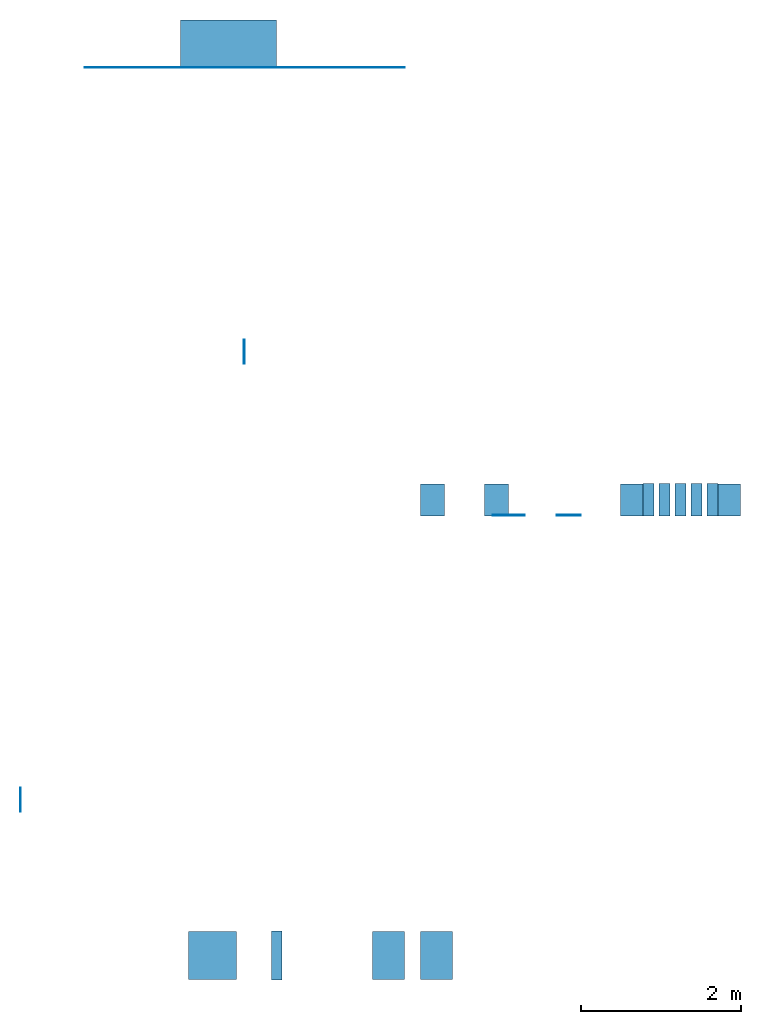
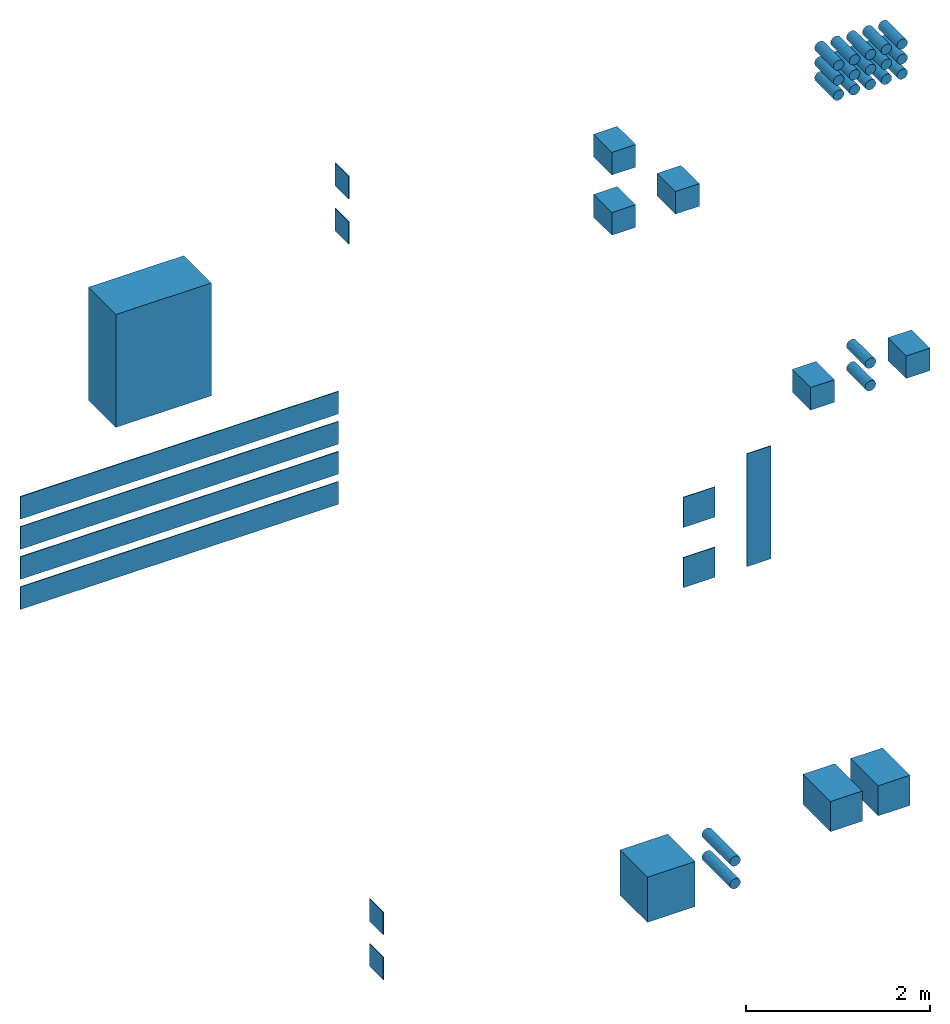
# One storey: 20 walls, 19 beams, 39 elements without a shape of their own.
"""IFC2X3 building model written with IfcOpenShell, lengths in millimetres."""

from ifc_helpers import new_model, si_unit, frame, frame_2d, origin_with_axes, origin_2d_with_axis, place, context, subcontext, project, spatial, rectangle, circle, extrude, material, type_object, element, aggregate, save


model = new_model("IFC2X3")

# Units and contexts
model_context = context("Model", 3, precision=1e-05, world=origin_with_axes())
body_context = subcontext(model_context, "Body", "Model", "MODEL_VIEW")
ifc_project = project(units=[si_unit("LENGTHUNIT", "METRE", prefix="MILLI"), si_unit("AREAUNIT", "SQUARE_METRE"), si_unit("VOLUMEUNIT", "CUBIC_METRE"), si_unit("MASSUNIT", "GRAM", prefix="KILO"), si_unit("TIMEUNIT", "SECOND"), si_unit("PLANEANGLEUNIT", "RADIAN"), si_unit("SOLIDANGLEUNIT", "STERADIAN"), si_unit("THERMODYNAMICTEMPERATUREUNIT", "DEGREE_CELSIUS"), si_unit("LUMINOUSINTENSITYUNIT", "LUMEN")], contexts=[model_context])

# Site, building, storey
site_placement = place(None, origin_with_axes())
site = spatial("IfcSite", under=ifc_project, at=site_placement, Name="Undefined", CompositionType="ELEMENT")
building_placement = place(site_placement, origin_with_axes())
building = spatial("IfcBuilding", under=site, at=building_placement, Name="Undefined", CompositionType="ELEMENT")
storey_placement = place(building_placement, origin_with_axes())
storey = spatial("IfcBuildingStorey", under=building, at=storey_placement, Name="Undefined", CompositionType="ELEMENT", Elevation=0.0)

# Assembly, beam
assembly_1_placement = place(storey_placement, origin_with_axes())
assembly_1 = element("IfcElementAssembly", 1, at=assembly_1_placement, inside=storey, Name="BEAM", AssemblyPlace="NOTDEFINED", PredefinedType="REINFORCEMENT_UNIT")
ifc_material_1 = material(Name="CONCRETE/Opening")
beam_type = type_object("IfcBeamType", Name="D133", PredefinedType="NOTDEFINED")
beam_1_placement = place(assembly_1_placement, frame((9250.0, 5795.0, 8666.5), z_axis=(0.0, 0.0, 1.0), x_axis=(0.0, 1.0, 0.0)))
beam_1 = element("IfcBeam", 2, at=beam_1_placement, type_object=beam_type, material=ifc_material_1, Name="BEAM", ObjectType="D133", context=body_context, shape_type="SweptSolid", body=[
    extrude(circle(Radius=66.5, at=origin_2d_with_axis()), frame((410.0, 0.0, 0.0), z_axis=(-1.0, 0.0, 0.0), x_axis=(0.0, -1.0, 0.0)), (0.0, 0.0, 1.0), 410.0),
])
aggregate(assembly_1, [beam_1])

assembly_2_placement = place(storey_placement, origin_with_axes())
assembly_2 = element("IfcElementAssembly", 3, at=assembly_2_placement, inside=storey, Name="BEAM", AssemblyPlace="NOTDEFINED", PredefinedType="REINFORCEMENT_UNIT")
beam_2_placement = place(assembly_2_placement, frame((9250.0, 5795.0, 8466.5), z_axis=(0.0, 0.0, 1.0), x_axis=(0.0, 1.0, 0.0)))
beam_2 = element("IfcBeam", 4, at=beam_2_placement, type_object=beam_type, material=ifc_material_1, Name="BEAM", ObjectType="D133", context=body_context, shape_type="SweptSolid", body=[
    extrude(circle(Radius=66.5, at=origin_2d_with_axis()), frame((410.0, 0.0, 0.0), z_axis=(-1.0, 0.0, 0.0), x_axis=(0.0, -1.0, 0.0)), (0.0, 0.0, 1.0), 410.0),
])
aggregate(assembly_2, [beam_2])

assembly_3_placement = place(storey_placement, origin_with_axes())
assembly_3 = element("IfcElementAssembly", 5, at=assembly_3_placement, inside=storey, Name="BEAM", AssemblyPlace="NOTDEFINED", PredefinedType="REINFORCEMENT_UNIT")
beam_3_placement = place(assembly_3_placement, frame((9250.0, 5795.0, 8266.5), z_axis=(0.0, 0.0, 1.0), x_axis=(0.0, 1.0, 0.0)))
beam_3 = element("IfcBeam", 6, at=beam_3_placement, type_object=beam_type, material=ifc_material_1, Name="BEAM", ObjectType="D133", context=body_context, shape_type="SweptSolid", body=[
    extrude(circle(Radius=66.5, at=origin_2d_with_axis()), frame((410.0, 0.0, 0.0), z_axis=(-1.0, 0.0, 0.0), x_axis=(0.0, -1.0, 0.0)), (0.0, 0.0, 1.0), 410.0),
])
aggregate(assembly_3, [beam_3])

assembly_4_placement = place(storey_placement, origin_with_axes())
assembly_4 = element("IfcElementAssembly", 7, at=assembly_4_placement, inside=storey, Name="BEAM", AssemblyPlace="NOTDEFINED", PredefinedType="REINFORCEMENT_UNIT")
beam_4_placement = place(assembly_4_placement, frame((8450.0, 5795.0, 8666.5), z_axis=(0.0, 0.0, 1.0), x_axis=(0.0, 1.0, 0.0)))
beam_4 = element("IfcBeam", 8, at=beam_4_placement, type_object=beam_type, material=ifc_material_1, Name="BEAM", ObjectType="D133", context=body_context, shape_type="SweptSolid", body=[
    extrude(circle(Radius=66.5, at=origin_2d_with_axis()), frame((410.0, 0.0, 0.0), z_axis=(-1.0, 0.0, 0.0), x_axis=(0.0, -1.0, 0.0)), (0.0, 0.0, 1.0), 410.0),
])
aggregate(assembly_4, [beam_4])

assembly_5_placement = place(storey_placement, origin_with_axes())
assembly_5 = element("IfcElementAssembly", 9, at=assembly_5_placement, inside=storey, Name="BEAM", AssemblyPlace="NOTDEFINED", PredefinedType="REINFORCEMENT_UNIT")
beam_5_placement = place(assembly_5_placement, frame((8450.0, 5795.0, 8466.5), z_axis=(0.0, 0.0, 1.0), x_axis=(0.0, 1.0, 0.0)))
beam_5 = element("IfcBeam", 10, at=beam_5_placement, type_object=beam_type, material=ifc_material_1, Name="BEAM", ObjectType="D133", context=body_context, shape_type="SweptSolid", body=[
    extrude(circle(Radius=66.5, at=origin_2d_with_axis()), frame((410.0, 0.0, 0.0), z_axis=(-1.0, 0.0, 0.0), x_axis=(0.0, -1.0, 0.0)), (0.0, 0.0, 1.0), 410.0),
])
aggregate(assembly_5, [beam_5])

assembly_6_placement = place(storey_placement, origin_with_axes())
assembly_6 = element("IfcElementAssembly", 11, at=assembly_6_placement, inside=storey, Name="BEAM", AssemblyPlace="NOTDEFINED", PredefinedType="REINFORCEMENT_UNIT")
beam_6_placement = place(assembly_6_placement, frame((8450.0, 5795.0, 8266.5), z_axis=(0.0, 0.0, 1.0), x_axis=(0.0, 1.0, 0.0)))
beam_6 = element("IfcBeam", 12, at=beam_6_placement, type_object=beam_type, material=ifc_material_1, Name="BEAM", ObjectType="D133", context=body_context, shape_type="SweptSolid", body=[
    extrude(circle(Radius=66.5, at=origin_2d_with_axis()), frame((410.0, 0.0, 0.0), z_axis=(-1.0, 0.0, 0.0), x_axis=(0.0, -1.0, 0.0)), (0.0, 0.0, 1.0), 410.0),
])
aggregate(assembly_6, [beam_6])

assembly_7_placement = place(storey_placement, origin_with_axes())
assembly_7 = element("IfcElementAssembly", 13, at=assembly_7_placement, inside=storey, Name="BEAM", AssemblyPlace="NOTDEFINED", PredefinedType="REINFORCEMENT_UNIT")
beam_7_placement = place(assembly_7_placement, frame((8650.0, 5795.0, 8666.5), z_axis=(0.0, 0.0, 1.0), x_axis=(0.0, 1.0, 0.0)))
beam_7 = element("IfcBeam", 14, at=beam_7_placement, type_object=beam_type, material=ifc_material_1, Name="BEAM", ObjectType="D133", context=body_context, shape_type="SweptSolid", body=[
    extrude(circle(Radius=66.5, at=origin_2d_with_axis()), frame((410.0, 0.0, 0.0), z_axis=(-1.0, 0.0, 0.0), x_axis=(0.0, -1.0, 0.0)), (0.0, 0.0, 1.0), 410.0),
])
aggregate(assembly_7, [beam_7])

assembly_8_placement = place(storey_placement, origin_with_axes())
assembly_8 = element("IfcElementAssembly", 15, at=assembly_8_placement, inside=storey, Name="BEAM", AssemblyPlace="NOTDEFINED", PredefinedType="REINFORCEMENT_UNIT")
beam_8_placement = place(assembly_8_placement, frame((8650.0, 5795.0, 8466.5), z_axis=(0.0, 0.0, 1.0), x_axis=(0.0, 1.0, 0.0)))
beam_8 = element("IfcBeam", 16, at=beam_8_placement, type_object=beam_type, material=ifc_material_1, Name="BEAM", ObjectType="D133", context=body_context, shape_type="SweptSolid", body=[
    extrude(circle(Radius=66.5, at=origin_2d_with_axis()), frame((410.0, 0.0, 0.0), z_axis=(-1.0, 0.0, 0.0), x_axis=(0.0, -1.0, 0.0)), (0.0, 0.0, 1.0), 410.0),
])
aggregate(assembly_8, [beam_8])

assembly_9_placement = place(storey_placement, origin_with_axes())
assembly_9 = element("IfcElementAssembly", 17, at=assembly_9_placement, inside=storey, Name="BEAM", AssemblyPlace="NOTDEFINED", PredefinedType="REINFORCEMENT_UNIT")
beam_9_placement = place(assembly_9_placement, frame((8650.0, 5795.0, 8266.5), z_axis=(0.0, 0.0, 1.0), x_axis=(0.0, 1.0, 0.0)))
beam_9 = element("IfcBeam", 18, at=beam_9_placement, type_object=beam_type, material=ifc_material_1, Name="BEAM", ObjectType="D133", context=body_context, shape_type="SweptSolid", body=[
    extrude(circle(Radius=66.5, at=origin_2d_with_axis()), frame((410.0, 0.0, 0.0), z_axis=(-1.0, 0.0, 0.0), x_axis=(0.0, -1.0, 0.0)), (0.0, 0.0, 1.0), 410.0),
])
aggregate(assembly_9, [beam_9])

assembly_10_placement = place(storey_placement, origin_with_axes())
assembly_10 = element("IfcElementAssembly", 19, at=assembly_10_placement, inside=storey, Name="BEAM", AssemblyPlace="NOTDEFINED", PredefinedType="REINFORCEMENT_UNIT")
beam_10_placement = place(assembly_10_placement, frame((9050.0, 5795.0, 8666.5), z_axis=(0.0, 0.0, 1.0), x_axis=(0.0, 1.0, 0.0)))
beam_10 = element("IfcBeam", 20, at=beam_10_placement, type_object=beam_type, material=ifc_material_1, Name="BEAM", ObjectType="D133", context=body_context, shape_type="SweptSolid", body=[
    extrude(circle(Radius=66.5, at=origin_2d_with_axis()), frame((410.0, 0.0, 0.0), z_axis=(-1.0, 0.0, 0.0), x_axis=(0.0, -1.0, 0.0)), (0.0, 0.0, 1.0), 410.0),
])
aggregate(assembly_10, [beam_10])

assembly_11_placement = place(storey_placement, origin_with_axes())
assembly_11 = element("IfcElementAssembly", 21, at=assembly_11_placement, inside=storey, Name="BEAM", AssemblyPlace="NOTDEFINED", PredefinedType="REINFORCEMENT_UNIT")
beam_11_placement = place(assembly_11_placement, frame((9050.0, 5795.0, 8466.5), z_axis=(0.0, 0.0, 1.0), x_axis=(0.0, 1.0, 0.0)))
beam_11 = element("IfcBeam", 22, at=beam_11_placement, type_object=beam_type, material=ifc_material_1, Name="BEAM", ObjectType="D133", context=body_context, shape_type="SweptSolid", body=[
    extrude(circle(Radius=66.5, at=origin_2d_with_axis()), frame((410.0, 0.0, 0.0), z_axis=(-1.0, 0.0, 0.0), x_axis=(0.0, -1.0, 0.0)), (0.0, 0.0, 1.0), 410.0),
])
aggregate(assembly_11, [beam_11])

assembly_12_placement = place(storey_placement, origin_with_axes())
assembly_12 = element("IfcElementAssembly", 23, at=assembly_12_placement, inside=storey, Name="BEAM", AssemblyPlace="NOTDEFINED", PredefinedType="REINFORCEMENT_UNIT")
beam_12_placement = place(assembly_12_placement, frame((9050.0, 5795.0, 8266.5), z_axis=(0.0, 0.0, 1.0), x_axis=(0.0, 1.0, 0.0)))
beam_12 = element("IfcBeam", 24, at=beam_12_placement, type_object=beam_type, material=ifc_material_1, Name="BEAM", ObjectType="D133", context=body_context, shape_type="SweptSolid", body=[
    extrude(circle(Radius=66.5, at=origin_2d_with_axis()), frame((410.0, 0.0, 0.0), z_axis=(-1.0, 0.0, 0.0), x_axis=(0.0, -1.0, 0.0)), (0.0, 0.0, 1.0), 410.0),
])
aggregate(assembly_12, [beam_12])

assembly_13_placement = place(storey_placement, origin_with_axes())
assembly_13 = element("IfcElementAssembly", 25, at=assembly_13_placement, inside=storey, Name="BEAM", AssemblyPlace="NOTDEFINED", PredefinedType="REINFORCEMENT_UNIT")
beam_13_placement = place(assembly_13_placement, frame((8850.0, 5795.0, 8666.5), z_axis=(0.0, 0.0, 1.0), x_axis=(0.0, 1.0, 0.0)))
beam_13 = element("IfcBeam", 26, at=beam_13_placement, type_object=beam_type, material=ifc_material_1, Name="BEAM", ObjectType="D133", context=body_context, shape_type="SweptSolid", body=[
    extrude(circle(Radius=66.5, at=origin_2d_with_axis()), frame((410.0, 0.0, 0.0), z_axis=(-1.0, 0.0, 0.0), x_axis=(0.0, -1.0, 0.0)), (0.0, 0.0, 1.0), 410.0),
])
aggregate(assembly_13, [beam_13])

assembly_14_placement = place(storey_placement, origin_with_axes())
assembly_14 = element("IfcElementAssembly", 27, at=assembly_14_placement, inside=storey, Name="BEAM", AssemblyPlace="NOTDEFINED", PredefinedType="REINFORCEMENT_UNIT")
beam_14_placement = place(assembly_14_placement, frame((8850.0, 5795.0, 8466.5), z_axis=(0.0, 0.0, 1.0), x_axis=(0.0, 1.0, 0.0)))
beam_14 = element("IfcBeam", 28, at=beam_14_placement, type_object=beam_type, material=ifc_material_1, Name="BEAM", ObjectType="D133", context=body_context, shape_type="SweptSolid", body=[
    extrude(circle(Radius=66.5, at=origin_2d_with_axis()), frame((410.0, 0.0, 0.0), z_axis=(-1.0, 0.0, 0.0), x_axis=(0.0, -1.0, 0.0)), (0.0, 0.0, 1.0), 410.0),
])
aggregate(assembly_14, [beam_14])

assembly_15_placement = place(storey_placement, origin_with_axes())
assembly_15 = element("IfcElementAssembly", 29, at=assembly_15_placement, inside=storey, Name="BEAM", AssemblyPlace="NOTDEFINED", PredefinedType="REINFORCEMENT_UNIT")
beam_15_placement = place(assembly_15_placement, frame((8850.0, 5795.0, 8266.5), z_axis=(0.0, 0.0, 1.0), x_axis=(0.0, 1.0, 0.0)))
beam_15 = element("IfcBeam", 30, at=beam_15_placement, type_object=beam_type, material=ifc_material_1, Name="BEAM", ObjectType="D133", context=body_context, shape_type="SweptSolid", body=[
    extrude(circle(Radius=66.5, at=origin_2d_with_axis()), frame((410.0, 0.0, 0.0), z_axis=(-1.0, 0.0, 0.0), x_axis=(0.0, -1.0, 0.0)), (0.0, 0.0, 1.0), 410.0),
])
aggregate(assembly_15, [beam_15])

assembly_16_placement = place(storey_placement, origin_with_axes())
assembly_16 = element("IfcElementAssembly", 31, at=assembly_16_placement, inside=storey, Name="BEAM", AssemblyPlace="NOTDEFINED", PredefinedType="REINFORCEMENT_UNIT")
beam_16_placement = place(assembly_16_placement, frame((8850.0, 5795.0, 4566.5), z_axis=(0.0, 0.0, 1.0), x_axis=(0.0, 1.0, 0.0)))
beam_16 = element("IfcBeam", 32, at=beam_16_placement, type_object=beam_type, material=ifc_material_1, Name="BEAM", ObjectType="D133", context=body_context, shape_type="SweptSolid", body=[
    extrude(circle(Radius=66.5, at=origin_2d_with_axis()), frame((410.0, 0.0, 0.0), z_axis=(-1.0, 0.0, 0.0), x_axis=(0.0, -1.0, 0.0)), (0.0, 0.0, 1.0), 410.0),
])
aggregate(assembly_16, [beam_16])

assembly_17_placement = place(storey_placement, origin_with_axes())
assembly_17 = element("IfcElementAssembly", 33, at=assembly_17_placement, inside=storey, Name="BEAM", AssemblyPlace="NOTDEFINED", PredefinedType="REINFORCEMENT_UNIT")
beam_17_placement = place(assembly_17_placement, frame((8850.0, 5795.0, 4266.5), z_axis=(0.0, 0.0, 1.0), x_axis=(0.0, 1.0, 0.0)))
beam_17 = element("IfcBeam", 34, at=beam_17_placement, type_object=beam_type, material=ifc_material_1, Name="BEAM", ObjectType="D133", context=body_context, shape_type="SweptSolid", body=[
    extrude(circle(Radius=66.5, at=origin_2d_with_axis()), frame((410.0, 0.0, 0.0), z_axis=(-1.0, 0.0, 0.0), x_axis=(0.0, -1.0, 0.0)), (0.0, 0.0, 1.0), 410.0),
])
aggregate(assembly_17, [beam_17])

assembly_18_placement = place(storey_placement, origin_with_axes())
assembly_18 = element("IfcElementAssembly", 35, at=assembly_18_placement, inside=storey, Name="BEAM", AssemblyPlace="NOTDEFINED", PredefinedType="REINFORCEMENT_UNIT")
beam_18_placement = place(assembly_18_placement, frame((3800.0, -5.0, 3233.5), z_axis=(0.0, 0.0, 1.0), x_axis=(0.0, 1.0, 0.0)))
beam_18 = element("IfcBeam", 36, at=beam_18_placement, type_object=beam_type, material=ifc_material_1, Name="BEAM", ObjectType="D133", context=body_context, shape_type="SweptSolid", body=[
    extrude(circle(Radius=66.5, at=origin_2d_with_axis()), frame((610.0, 0.0, 0.0), z_axis=(-1.0, 0.0, 0.0), x_axis=(0.0, -1.0, 0.0)), (0.0, 0.0, 1.0), 610.0),
])
aggregate(assembly_18, [beam_18])

assembly_19_placement = place(storey_placement, origin_with_axes())
assembly_19 = element("IfcElementAssembly", 37, at=assembly_19_placement, inside=storey, Name="BEAM", AssemblyPlace="NOTDEFINED", PredefinedType="REINFORCEMENT_UNIT")
beam_19_placement = place(assembly_19_placement, frame((3800.0, -5.0, 2933.5), z_axis=(0.0, 0.0, 1.0), x_axis=(0.0, 1.0, 0.0)))
beam_19 = element("IfcBeam", 38, at=beam_19_placement, type_object=beam_type, material=ifc_material_1, Name="BEAM", ObjectType="D133", context=body_context, shape_type="SweptSolid", body=[
    extrude(circle(Radius=66.5, at=origin_2d_with_axis()), frame((610.0, 0.0, 0.0), z_axis=(-1.0, 0.0, 0.0), x_axis=(0.0, -1.0, 0.0)), (0.0, 0.0, 1.0), 610.0),
])
aggregate(assembly_19, [beam_19])

# Assembly, wall
assembly_20_placement = place(storey_placement, origin_with_axes())
assembly_20 = element("IfcElementAssembly", 39, at=assembly_20_placement, inside=storey, Name="Wall", AssemblyPlace="NOTDEFINED", PredefinedType="RIGID_FRAME")
ifc_material_2 = material(Name="STEEL/Steel_Undefined")
wall_type_1 = type_object("IfcWallType", Name="300*10", PredefinedType="NOTDEFINED")
wall_1_placement = place(assembly_20_placement, frame((595.000000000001, 2100.0, 2100.0), z_axis=(0.0, 0.0, 1.0), x_axis=(0.0, 1.0, 0.0)))
wall_1 = element("IfcWall", 40, at=wall_1_placement, type_object=wall_type_1, material=ifc_material_2, Name="Wall", ObjectType="300*10", context=body_context, shape_type="SweptSolid", body=[
    extrude(rectangle(XDim=300.0, YDim=10.0, at=frame_2d((0.0, 150.0), x_axis=(0.0, -1.0))), frame((0.0, 0.0, 0.0), z_axis=(0.0, 0.0, 1.0), x_axis=(0.0, -1.0, 0.0)), (0.0, 0.0, 1.0), 300.0),
])
aggregate(assembly_20, [wall_1])

assembly_21_placement = place(storey_placement, origin_with_axes())
assembly_21 = element("IfcElementAssembly", 41, at=assembly_21_placement, inside=storey, Name="Wall", AssemblyPlace="NOTDEFINED", PredefinedType="RIGID_FRAME")
wall_2_placement = place(assembly_21_placement, frame((595.000000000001, 2100.0, 1500.0), z_axis=(0.0, 0.0, 1.0), x_axis=(0.0, 1.0, 0.0)))
wall_2 = element("IfcWall", 42, at=wall_2_placement, type_object=wall_type_1, material=ifc_material_2, Name="Wall", ObjectType="300*10", context=body_context, shape_type="SweptSolid", body=[
    extrude(rectangle(XDim=300.0, YDim=10.0, at=frame_2d((0.0, 150.0), x_axis=(0.0, -1.0))), frame((0.0, 0.0, 0.0), z_axis=(0.0, 0.0, 1.0), x_axis=(0.0, -1.0, 0.0)), (0.0, 0.0, 1.0), 300.0),
])
aggregate(assembly_21, [wall_2])

assembly_22_placement = place(storey_placement, origin_with_axes())
assembly_22 = element("IfcElementAssembly", 43, at=assembly_22_placement, inside=storey, Name="Wall", AssemblyPlace="NOTDEFINED", PredefinedType="REINFORCEMENT_UNIT")
wall_3_placement = place(assembly_22_placement, frame((1400.0, 11405.0, 1700.0), z_axis=(0.0, 0.0, 1.0), x_axis=(1.0, 0.0, 0.0)))
wall_3 = element("IfcWall", 44, at=wall_3_placement, type_object=wall_type_1, material=ifc_material_1, Name="Wall", ObjectType="300*10", context=body_context, shape_type="SweptSolid", body=[
    extrude(rectangle(XDim=4000.0, YDim=10.0, at=frame_2d((0.0, 2000.0), x_axis=(0.0, -1.0))), frame((0.0, 0.0, 0.0), z_axis=(0.0, 0.0, 1.0), x_axis=(0.0, -1.0, 0.0)), (0.0, 0.0, 1.0), 300.0),
])
aggregate(assembly_22, [wall_3])

assembly_23_placement = place(storey_placement, origin_with_axes())
assembly_23 = element("IfcElementAssembly", 45, at=assembly_23_placement, inside=storey, Name="Wall", AssemblyPlace="NOTDEFINED", PredefinedType="REINFORCEMENT_UNIT")
wall_4_placement = place(assembly_23_placement, frame((1400.0, 11405.0, 1300.0), z_axis=(0.0, 0.0, 1.0), x_axis=(1.0, 0.0, 0.0)))
wall_4 = element("IfcWall", 46, at=wall_4_placement, type_object=wall_type_1, material=ifc_material_1, Name="Wall", ObjectType="300*10", context=body_context, shape_type="SweptSolid", body=[
    extrude(rectangle(XDim=4000.0, YDim=10.0, at=frame_2d((0.0, 2000.0), x_axis=(0.0, -1.0))), frame((0.0, 0.0, 0.0), z_axis=(0.0, 0.0, 1.0), x_axis=(0.0, -1.0, 0.0)), (0.0, 0.0, 1.0), 300.0),
])
aggregate(assembly_23, [wall_4])

assembly_24_placement = place(storey_placement, origin_with_axes())
assembly_24 = element("IfcElementAssembly", 47, at=assembly_24_placement, inside=storey, Name="Wall", AssemblyPlace="NOTDEFINED", PredefinedType="REINFORCEMENT_UNIT")
wall_5_placement = place(assembly_24_placement, frame((1400.0, 11405.0, 899.999999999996), z_axis=(0.0, 0.0, 1.0), x_axis=(1.0, 0.0, 0.0)))
wall_5 = element("IfcWall", 48, at=wall_5_placement, type_object=wall_type_1, material=ifc_material_1, Name="Wall", ObjectType="300*10", context=body_context, shape_type="SweptSolid", body=[
    extrude(rectangle(XDim=4000.0, YDim=10.0, at=frame_2d((0.0, 2000.0), x_axis=(0.0, -1.0))), frame((0.0, 0.0, 0.0), z_axis=(0.0, 0.0, 1.0), x_axis=(0.0, -1.0, 0.0)), (0.0, 0.0, 1.0), 300.0),
])
aggregate(assembly_24, [wall_5])

assembly_25_placement = place(storey_placement, origin_with_axes())
assembly_25 = element("IfcElementAssembly", 49, at=assembly_25_placement, inside=storey, Name="Wall", AssemblyPlace="NOTDEFINED", PredefinedType="REINFORCEMENT_UNIT")
wall_6_placement = place(assembly_25_placement, frame((1400.0, 11405.0, 499.999999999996), z_axis=(0.0, 0.0, 1.0), x_axis=(1.0, 0.0, 0.0)))
wall_6 = element("IfcWall", 50, at=wall_6_placement, type_object=wall_type_1, material=ifc_material_1, Name="Wall", ObjectType="300*10", context=body_context, shape_type="SweptSolid", body=[
    extrude(rectangle(XDim=4000.0, YDim=10.0, at=frame_2d((0.0, 2000.0), x_axis=(0.0, -1.0))), frame((0.0, 0.0, 0.0), z_axis=(0.0, 0.0, 1.0), x_axis=(0.0, -1.0, 0.0)), (0.0, 0.0, 1.0), 300.0),
])
aggregate(assembly_25, [wall_6])

assembly_26_placement = place(storey_placement, origin_with_axes())
assembly_26 = element("IfcElementAssembly", 51, at=assembly_26_placement, inside=storey, Name="Wall", AssemblyPlace="NOTDEFINED", PredefinedType="RIGID_FRAME")
wall_7_placement = place(assembly_26_placement, frame((3395.0, 7700.0, 7500.0), z_axis=(0.0, 0.0, 1.0), x_axis=(0.0, 1.0, 0.0)))
wall_7 = element("IfcWall", 52, at=wall_7_placement, type_object=wall_type_1, material=ifc_material_2, Name="Wall", ObjectType="300*10", context=body_context, shape_type="SweptSolid", body=[
    extrude(rectangle(XDim=300.0, YDim=10.0, at=frame_2d((0.0, 150.0), x_axis=(0.0, -1.0))), frame((0.0, 0.0, 0.0), z_axis=(0.0, 0.0, 1.0), x_axis=(0.0, -1.0, 0.0)), (0.0, 0.0, 1.0), 300.0),
])
aggregate(assembly_26, [wall_7])

assembly_27_placement = place(storey_placement, origin_with_axes())
assembly_27 = element("IfcElementAssembly", 53, at=assembly_27_placement, inside=storey, Name="Wall", AssemblyPlace="NOTDEFINED", PredefinedType="RIGID_FRAME")
wall_8_placement = place(assembly_27_placement, frame((3395.0, 7700.0, 6900.0), z_axis=(0.0, 0.0, 1.0), x_axis=(0.0, 1.0, 0.0)))
wall_8 = element("IfcWall", 54, at=wall_8_placement, type_object=wall_type_1, material=ifc_material_2, Name="Wall", ObjectType="300*10", context=body_context, shape_type="SweptSolid", body=[
    extrude(rectangle(XDim=300.0, YDim=10.0, at=frame_2d((0.0, 150.0), x_axis=(0.0, -1.0))), frame((0.0, 0.0, 0.0), z_axis=(0.0, 0.0, 1.0), x_axis=(0.0, -1.0, 0.0)), (0.0, 0.0, 1.0), 300.0),
])
aggregate(assembly_27, [wall_8])

assembly_28_placement = place(storey_placement, origin_with_axes())
assembly_28 = element("IfcElementAssembly", 55, at=assembly_28_placement, inside=storey, Name="Wall", AssemblyPlace="NOTDEFINED", PredefinedType="RIGID_FRAME")
wall_type_2 = type_object("IfcWallType", Name="400*10", PredefinedType="NOTDEFINED")
wall_9_placement = place(assembly_28_placement, frame((6900.0, 5804.99999999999, 3200.0), z_axis=(0.0, 0.0, 1.0), x_axis=(-1.0, 0.0, 0.0)))
wall_9 = element("IfcWall", 56, at=wall_9_placement, type_object=wall_type_2, material=ifc_material_2, Name="Wall", ObjectType="400*10", context=body_context, shape_type="SweptSolid", body=[
    extrude(rectangle(XDim=400.0, YDim=10.0, at=frame_2d((0.0, 200.0), x_axis=(0.0, -1.0))), frame((0.0, 0.0, 0.0), z_axis=(0.0, 0.0, 1.0), x_axis=(0.0, -1.0, 0.0)), (0.0, 0.0, 1.0), 400.0),
])
aggregate(assembly_28, [wall_9])

assembly_29_placement = place(storey_placement, origin_with_axes())
assembly_29 = element("IfcElementAssembly", 57, at=assembly_29_placement, inside=storey, Name="Wall", AssemblyPlace="NOTDEFINED", PredefinedType="RIGID_FRAME")
wall_10_placement = place(assembly_29_placement, frame((6900.0, 5804.99999999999, 2400.0), z_axis=(0.0, 0.0, 1.0), x_axis=(-1.0, 0.0, 0.0)))
wall_10 = element("IfcWall", 58, at=wall_10_placement, type_object=wall_type_2, material=ifc_material_2, Name="Wall", ObjectType="400*10", context=body_context, shape_type="SweptSolid", body=[
    extrude(rectangle(XDim=400.0, YDim=10.0, at=frame_2d((0.0, 200.0), x_axis=(0.0, -1.0))), frame((0.0, 0.0, 0.0), z_axis=(0.0, 0.0, 1.0), x_axis=(0.0, -1.0, 0.0)), (0.0, 0.0, 1.0), 400.0),
])
aggregate(assembly_29, [wall_10])

assembly_30_placement = place(storey_placement, origin_with_axes())
assembly_30 = element("IfcElementAssembly", 59, at=assembly_30_placement, inside=storey, Name="Wall", AssemblyPlace="NOTDEFINED", PredefinedType="RIGID_FRAME")
wall_type_3 = type_object("IfcWallType", Name="1500*10", PredefinedType="NOTDEFINED")
wall_11_placement = place(assembly_30_placement, frame((7600.0, 5805.0, 2400.0), z_axis=(0.0, 0.0, 1.0), x_axis=(-1.0, 0.0, 0.0)))
wall_11 = element("IfcWall", 60, at=wall_11_placement, type_object=wall_type_3, material=ifc_material_2, Name="Wall", ObjectType="1500*10", context=body_context, shape_type="SweptSolid", body=[
    extrude(rectangle(XDim=300.0, YDim=10.0, at=frame_2d((0.0, 150.0), x_axis=(0.0, -1.0))), frame((0.0, 0.0, 0.0), z_axis=(0.0, 0.0, 1.0), x_axis=(0.0, -1.0, 0.0)), (0.0, 0.0, 1.0), 1500.0),
])
aggregate(assembly_30, [wall_11])

assembly_31_placement = place(storey_placement, origin_with_axes())
assembly_31 = element("IfcElementAssembly", 61, at=assembly_31_placement, inside=storey, Name="Wall", AssemblyPlace="NOTDEFINED", PredefinedType="REINFORCEMENT_UNIT")
wall_type_4 = type_object("IfcWallType", Name="300*400", PredefinedType="NOTDEFINED")
wall_12_placement = place(assembly_31_placement, frame((6700.0, 6000.0, 7400.0), z_axis=(0.0, 0.0, 1.0), x_axis=(-1.0, 0.0, 0.0)))
wall_12 = element("IfcWall", 62, at=wall_12_placement, type_object=wall_type_4, material=ifc_material_1, Name="Wall", ObjectType="300*400", context=body_context, shape_type="SweptSolid", body=[
    extrude(rectangle(XDim=300.0, YDim=400.0, at=frame_2d((0.0, 150.0), x_axis=(0.0, -1.0))), frame((0.0, 0.0, 0.0), z_axis=(0.0, 0.0, 1.0), x_axis=(0.0, -1.0, 0.0)), (0.0, 0.0, 1.0), 300.0),
])
aggregate(assembly_31, [wall_12])

assembly_32_placement = place(storey_placement, origin_with_axes())
assembly_32 = element("IfcElementAssembly", 63, at=assembly_32_placement, inside=storey, Name="Wall", AssemblyPlace="NOTDEFINED", PredefinedType="REINFORCEMENT_UNIT")
wall_13_placement = place(assembly_32_placement, frame((5900.0, 6000.0, 7400.0), z_axis=(0.0, 0.0, 1.0), x_axis=(-1.0, 0.0, 0.0)))
wall_13 = element("IfcWall", 64, at=wall_13_placement, type_object=wall_type_4, material=ifc_material_1, Name="Wall", ObjectType="300*400", context=body_context, shape_type="SweptSolid", body=[
    extrude(rectangle(XDim=300.0, YDim=400.0, at=frame_2d((0.0, 150.0), x_axis=(0.0, -1.0))), frame((0.0, 0.0, 0.0), z_axis=(0.0, 0.0, 1.0), x_axis=(0.0, -1.0, 0.0)), (0.0, 0.0, 1.0), 300.0),
])
aggregate(assembly_32, [wall_13])

assembly_33_placement = place(storey_placement, origin_with_axes())
assembly_33 = element("IfcElementAssembly", 65, at=assembly_33_placement, inside=storey, Name="Wall", AssemblyPlace="NOTDEFINED", PredefinedType="REINFORCEMENT_UNIT")
wall_14_placement = place(assembly_33_placement, frame((5900.0, 6000.0, 8200.0), z_axis=(0.0, 0.0, 1.0), x_axis=(-1.0, 0.0, 0.0)))
wall_14 = element("IfcWall", 66, at=wall_14_placement, type_object=wall_type_4, material=ifc_material_1, Name="Wall", ObjectType="300*400", context=body_context, shape_type="SweptSolid", body=[
    extrude(rectangle(XDim=300.0, YDim=400.0, at=frame_2d((0.0, 150.0), x_axis=(0.0, -1.0))), frame((0.0, 0.0, 0.0), z_axis=(0.0, 0.0, 1.0), x_axis=(0.0, -1.0, 0.0)), (0.0, 0.0, 1.0), 300.0),
])
aggregate(assembly_33, [wall_14])

assembly_34_placement = place(storey_placement, origin_with_axes())
assembly_34 = element("IfcElementAssembly", 67, at=assembly_34_placement, inside=storey, Name="Wall", AssemblyPlace="NOTDEFINED", PredefinedType="REINFORCEMENT_UNIT")
wall_15_placement = place(assembly_34_placement, frame((8400.0, 6000.0, 4200.0), z_axis=(0.0, 0.0, 1.0), x_axis=(-1.0, 0.0, 0.0)))
wall_15 = element("IfcWall", 68, at=wall_15_placement, type_object=wall_type_4, material=ifc_material_1, Name="Wall", ObjectType="300*400", context=body_context, shape_type="SweptSolid", body=[
    extrude(rectangle(XDim=300.0, YDim=400.0, at=frame_2d((0.0, 150.0), x_axis=(0.0, -1.0))), frame((0.0, 0.0, 0.0), z_axis=(0.0, 0.0, 1.0), x_axis=(0.0, -1.0, 0.0)), (0.0, 0.0, 1.0), 300.0),
])
aggregate(assembly_34, [wall_15])

assembly_35_placement = place(storey_placement, origin_with_axes())
assembly_35 = element("IfcElementAssembly", 69, at=assembly_35_placement, inside=storey, Name="Wall", AssemblyPlace="NOTDEFINED", PredefinedType="REINFORCEMENT_UNIT")
wall_16_placement = place(assembly_35_placement, frame((9600.0, 6000.0, 4200.0), z_axis=(0.0, 0.0, 1.0), x_axis=(-1.0, 0.0, 0.0)))
wall_16 = element("IfcWall", 70, at=wall_16_placement, type_object=wall_type_4, material=ifc_material_1, Name="Wall", ObjectType="300*400", context=body_context, shape_type="SweptSolid", body=[
    extrude(rectangle(XDim=300.0, YDim=400.0, at=frame_2d((0.0, 150.0), x_axis=(0.0, -1.0))), frame((0.0, 0.0, 0.0), z_axis=(0.0, 0.0, 1.0), x_axis=(0.0, -1.0, 0.0)), (0.0, 0.0, 1.0), 300.0),
])
aggregate(assembly_35, [wall_16])

assembly_36_placement = place(storey_placement, origin_with_axes())
assembly_36 = element("IfcElementAssembly", 71, at=assembly_36_placement, inside=storey, Name="Wall", AssemblyPlace="NOTDEFINED", PredefinedType="REINFORCEMENT_UNIT")
wall_type_5 = type_object("IfcWallType", Name="1500*600", PredefinedType="NOTDEFINED")
wall_17_placement = place(assembly_36_placement, frame((3800.0, 11700.0, 2500.0), z_axis=(0.0, 0.0, 1.0), x_axis=(-1.0, 0.0, 0.0)))
wall_17 = element("IfcWall", 72, at=wall_17_placement, type_object=wall_type_5, material=ifc_material_1, Name="Wall", ObjectType="1500*600", context=body_context, shape_type="SweptSolid", body=[
    extrude(rectangle(XDim=1200.0, YDim=600.0, at=frame_2d((0.0, 600.0), x_axis=(0.0, -1.0))), frame((0.0, 0.0, 0.0), z_axis=(0.0, 0.0, 1.0), x_axis=(0.0, -1.0, 0.0)), (0.0, 0.0, 1.0), 1500.0),
])
aggregate(assembly_36, [wall_17])

assembly_37_placement = place(storey_placement, origin_with_axes())
assembly_37 = element("IfcElementAssembly", 73, at=assembly_37_placement, inside=storey, Name="Wall", AssemblyPlace="NOTDEFINED", PredefinedType="REINFORCEMENT_UNIT")
wall_type_6 = type_object("IfcWallType", Name="400*600", PredefinedType="NOTDEFINED")
wall_18_placement = place(assembly_37_placement, frame((5400.0, 300.0, 3200.0), z_axis=(0.0, 0.0, 1.0), x_axis=(-1.0, 0.0, 0.0)))
wall_18 = element("IfcWall", 74, at=wall_18_placement, type_object=wall_type_6, material=ifc_material_1, Name="Wall", ObjectType="400*600", context=body_context, shape_type="SweptSolid", body=[
    extrude(rectangle(XDim=400.0, YDim=600.0, at=frame_2d((0.0, 200.0), x_axis=(0.0, -1.0))), frame((0.0, 0.0, 0.0), z_axis=(0.0, 0.0, 1.0), x_axis=(0.0, -1.0, 0.0)), (0.0, 0.0, 1.0), 400.0),
])
aggregate(assembly_37, [wall_18])

assembly_38_placement = place(storey_placement, origin_with_axes())
assembly_38 = element("IfcElementAssembly", 75, at=assembly_38_placement, inside=storey, Name="Wall", AssemblyPlace="NOTDEFINED", PredefinedType="REINFORCEMENT_UNIT")
wall_19_placement = place(assembly_38_placement, frame((6000.0, 300.0, 3200.0), z_axis=(0.0, 0.0, 1.0), x_axis=(-1.0, 0.0, 0.0)))
wall_19 = element("IfcWall", 76, at=wall_19_placement, type_object=wall_type_6, material=ifc_material_1, Name="Wall", ObjectType="400*600", context=body_context, shape_type="SweptSolid", body=[
    extrude(rectangle(XDim=400.0, YDim=600.0, at=frame_2d((0.0, 200.0), x_axis=(0.0, -1.0))), frame((0.0, 0.0, 0.0), z_axis=(0.0, 0.0, 1.0), x_axis=(0.0, -1.0, 0.0)), (0.0, 0.0, 1.0), 400.0),
])
aggregate(assembly_38, [wall_19])

assembly_39_placement = place(storey_placement, origin_with_axes())
assembly_39 = element("IfcElementAssembly", 77, at=assembly_39_placement, inside=storey, Name="Wall", AssemblyPlace="NOTDEFINED", PredefinedType="REINFORCEMENT_UNIT")
wall_type_7 = type_object("IfcWallType", Name="600*600", PredefinedType="NOTDEFINED")
wall_20_placement = place(assembly_39_placement, frame((2700.0, 300.000000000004, 2800.0), z_axis=(0.0, 0.0, 1.0), x_axis=(1.0, 0.0, 0.0)))
wall_20 = element("IfcWall", 78, at=wall_20_placement, type_object=wall_type_7, material=ifc_material_1, Name="Wall", ObjectType="600*600", context=body_context, shape_type="SweptSolid", body=[
    extrude(rectangle(XDim=600.0, YDim=600.0, at=frame_2d((0.0, 300.0), x_axis=(0.0, -1.0))), frame((0.0, 0.0, 0.0), z_axis=(0.0, 0.0, 1.0), x_axis=(0.0, -1.0, 0.0)), (0.0, 0.0, 1.0), 600.0),
])
aggregate(assembly_39, [wall_20])

save(model, "model.ifc")
